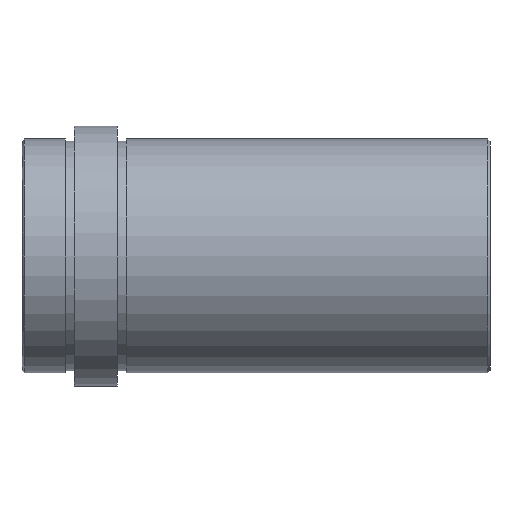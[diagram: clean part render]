
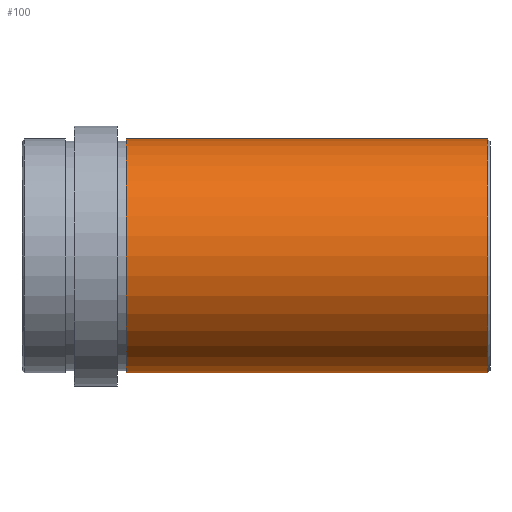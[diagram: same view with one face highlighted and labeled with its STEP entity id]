
A CAD part, front view. The second image highlights one B-rep face of the part: STEP entity #100.
In plain terms, the highlighted face is a revolution surface.
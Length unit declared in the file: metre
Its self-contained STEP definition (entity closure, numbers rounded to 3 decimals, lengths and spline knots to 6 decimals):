
#100 = ADVANCED_FACE( '', ( #157 ), #158, .F. );
#157 = FACE_OUTER_BOUND( '', #250, .T. );
#158 = SURFACE_OF_REVOLUTION( '', #251, #252 );
#250 = EDGE_LOOP( '', ( #419, #420, #421, #422 ) );
#251 = B_SPLINE_CURVE_WITH_KNOTS( '', 1, ( #423, #424 ), .UNSPECIFIED., .F., .F., ( 2, 2 ), ( -10000., 10000. ), .UNSPECIFIED. );
#252 = AXIS1_PLACEMENT( '', #425, #426 );
#419 = ORIENTED_EDGE( '', *, *, #492, .T. );
#420 = ORIENTED_EDGE( '', *, *, #490, .T. );
#421 = ORIENTED_EDGE( '', *, *, #445, .F. );
#422 = ORIENTED_EDGE( '', *, *, #489, .T. );
#423 = CARTESIAN_POINT( '', ( 10000.1075, 0., 0.027 ) );
#424 = CARTESIAN_POINT( '', ( -9999.8925, 0., 0.027 ) );
#425 = CARTESIAN_POINT( '', ( 0., 0., 0. ) );
#426 = DIRECTION( '', ( 1., 0., 0. ) );
#445 = EDGE_CURVE( '', #499, #500, #501, .T. );
#489 = EDGE_CURVE( '', #499, #571, #572, .F. );
#490 = EDGE_CURVE( '', #573, #500, #574, .T. );
#492 = EDGE_CURVE( '', #571, #573, #576, .T. );
#499 = VERTEX_POINT( '', #583 );
#500 = VERTEX_POINT( '', #584 );
#501 = CIRCLE( '', #585, 0.027 );
#571 = VERTEX_POINT( '', #671 );
#572 = LINE( '', #672, #673 );
#573 = VERTEX_POINT( '', #674 );
#574 = LINE( '', #675, #676 );
#576 = CIRCLE( '', #678, 0.027 );
#583 = CARTESIAN_POINT( '', ( 0.024, 0., -0.027 ) );
#584 = CARTESIAN_POINT( '', ( 0.024, 0., 0.027 ) );
#585 = AXIS2_PLACEMENT_3D( '', #689, #690, #691 );
#671 = CARTESIAN_POINT( '', ( 0.1075, 0., -0.027 ) );
#672 = CARTESIAN_POINT( '', ( 0.1075, 0., -0.027 ) );
#673 = VECTOR( '', #789, 1. );
#674 = CARTESIAN_POINT( '', ( 0.1075, 0., 0.027 ) );
#675 = CARTESIAN_POINT( '', ( 0.1075, 0., 0.027 ) );
#676 = VECTOR( '', #790, 1. );
#678 = AXIS2_PLACEMENT_3D( '', #794, #795, #796 );
#689 = CARTESIAN_POINT( '', ( 0.024, 0., 0. ) );
#690 = DIRECTION( '', ( -1., 0., 0. ) );
#691 = DIRECTION( '', ( 0., 0., 1. ) );
#789 = DIRECTION( '', ( -1., 0., 0. ) );
#790 = DIRECTION( '', ( -1., 0., 0. ) );
#794 = CARTESIAN_POINT( '', ( 0.1075, 0., 0. ) );
#795 = DIRECTION( '', ( -1., 0., 0. ) );
#796 = DIRECTION( '', ( 0., 0., 1. ) );
